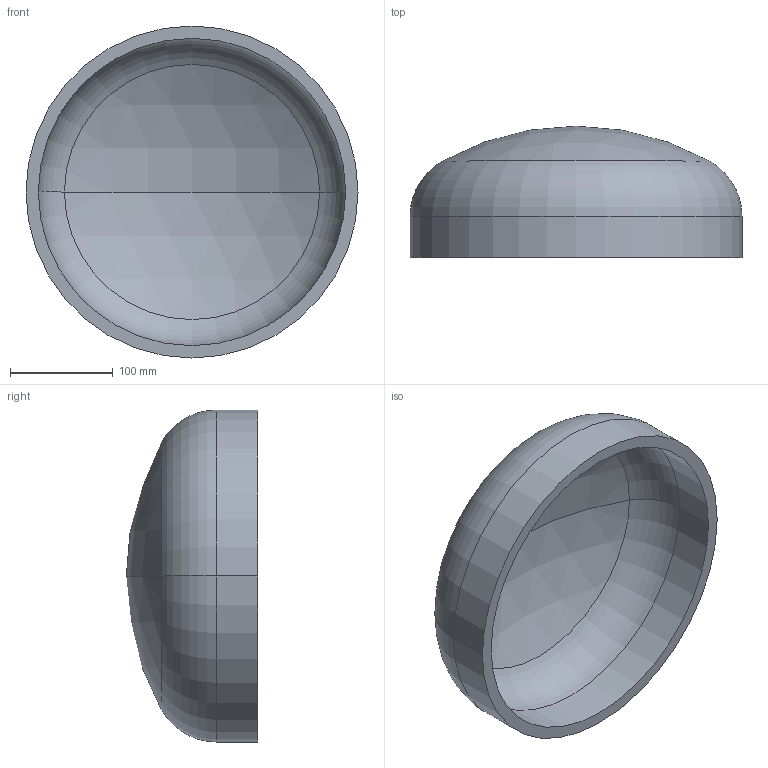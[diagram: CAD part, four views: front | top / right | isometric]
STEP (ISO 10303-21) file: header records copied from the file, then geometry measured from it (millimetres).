
FILE_DESCRIPTION (( 'STEP AP203' ), '1' );
FILE_NAME ('DIN 28013 Korbbogenform_-_Boden DIN 28013 - 323,9 x 40 - I - s=12.step', '2016-07-01T07:44:20', ( '' ), ( '' ), 'SwSTEP 2.0', 'SolidWorks 2013', '' );
FILE_SCHEMA (( 'CONFIG_CONTROL_DESIGN' ));
Length unit declared in the file: millimetre
Products named in the file (1): DIN 28013 Korbbogenform_-_Boden DIN 28013 - 323,9 x 40 - I - s=12
Bounding box: 323.9 x 128.16 x 323.9 mm (x, y, z)
Volume: 1777860.6 mm3; surface area: 308370 mm2
Topology: 1 solids, 1 shells, 13 faces, 24 edges, 14 vertices
Faces by surface type: torus 4, cylinder 4, sphere 4, plane 1
Entity records: 407 total; most frequent: DIRECTION 72, CARTESIAN_POINT 52, ORIENTED_EDGE 48, AXIS2_PLACEMENT_3D 34, EDGE_CURVE 24, CIRCLE 20, VERTEX_POINT 14, EDGE_LOOP 14
